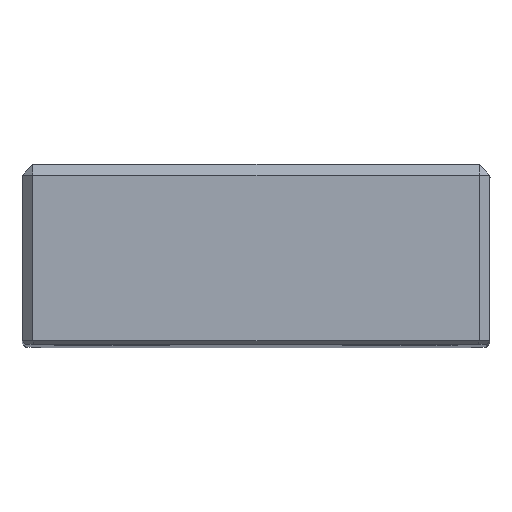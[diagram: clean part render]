
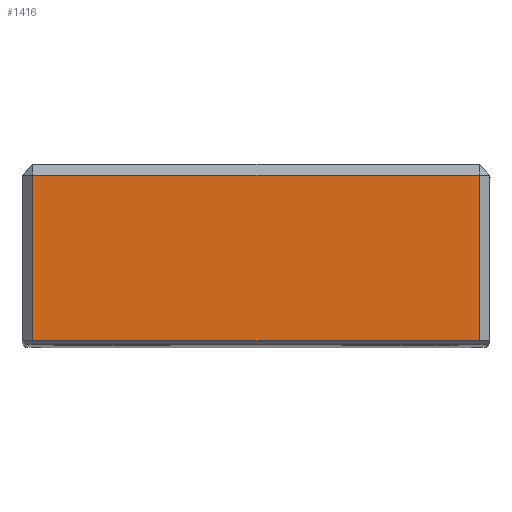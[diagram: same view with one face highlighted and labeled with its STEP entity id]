
A CAD part, top view. The second image highlights one B-rep face of the part: STEP entity #1416.
In plain terms, the highlighted planar face has unit normal (0, 0, 1).
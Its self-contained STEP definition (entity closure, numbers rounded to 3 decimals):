
#1389=AXIS2_PLACEMENT_3D('Plane Axis2P3D',#1386,#1387,#1388) ;
#602=CARTESIAN_POINT('Vertex',(-62.,-3.,0.)) ;
#605=CARTESIAN_POINT('Line Origine',(0.,-3.,0.)) ;
#609=CARTESIAN_POINT('Vertex',(62.,-3.,0.)) ;
#1386=CARTESIAN_POINT('Axis2P3D Location',(65.,0.,0.)) ;
#1391=CARTESIAN_POINT('Line Origine',(0.,-49.,0.)) ;
#1395=CARTESIAN_POINT('Vertex',(62.,-49.,0.)) ;
#1397=CARTESIAN_POINT('Vertex',(-62.,-49.,0.)) ;
#1400=CARTESIAN_POINT('Line Origine',(62.,-26.,0.)) ;
#1405=CARTESIAN_POINT('Line Origine',(-62.,-26.,0.)) ;
#606=DIRECTION('Vector Direction',(1.,0.,0.)) ;
#1387=DIRECTION('Axis2P3D Direction',(0.,0.,1.)) ;
#1388=DIRECTION('Axis2P3D XDirection',(-1.,0.,0.)) ;
#1392=DIRECTION('Vector Direction',(-1.,0.,0.)) ;
#1401=DIRECTION('Vector Direction',(0.,-1.,0.)) ;
#1406=DIRECTION('Vector Direction',(0.,1.,0.)) ;
#607=VECTOR('Line Direction',#606,1.) ;
#1393=VECTOR('Line Direction',#1392,1.) ;
#1402=VECTOR('Line Direction',#1401,1.) ;
#1407=VECTOR('Line Direction',#1406,1.) ;
#1411=ORIENTED_EDGE('',*,*,#1399,.F.) ;
#1412=ORIENTED_EDGE('',*,*,#1404,.F.) ;
#1413=ORIENTED_EDGE('',*,*,#611,.F.) ;
#1414=ORIENTED_EDGE('',*,*,#1409,.F.) ;
#1416=ADVANCED_FACE('MANIFOLD_SOLID_BREP #3303',(#1415),#1390,.T.) ;
#611=EDGE_CURVE('',#603,#610,#608,.T.) ;
#1399=EDGE_CURVE('',#1396,#1398,#1394,.T.) ;
#1404=EDGE_CURVE('',#610,#1396,#1403,.T.) ;
#1409=EDGE_CURVE('',#1398,#603,#1408,.T.) ;
#1410=EDGE_LOOP('',(#1411,#1412,#1413,#1414)) ;
#1415=FACE_OUTER_BOUND('',#1410,.T.) ;
#608=LINE('Line',#605,#607) ;
#1394=LINE('Line',#1391,#1393) ;
#1403=LINE('Line',#1400,#1402) ;
#1408=LINE('Line',#1405,#1407) ;
#1390=PLANE('Plane',#1389) ;
#603=VERTEX_POINT('',#602) ;
#610=VERTEX_POINT('',#609) ;
#1396=VERTEX_POINT('',#1395) ;
#1398=VERTEX_POINT('',#1397) ;
